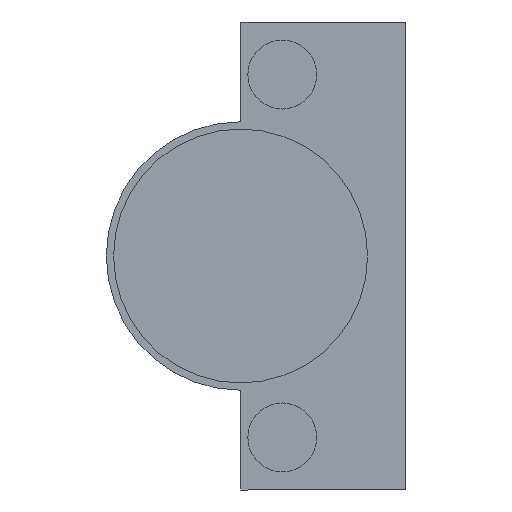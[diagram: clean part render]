
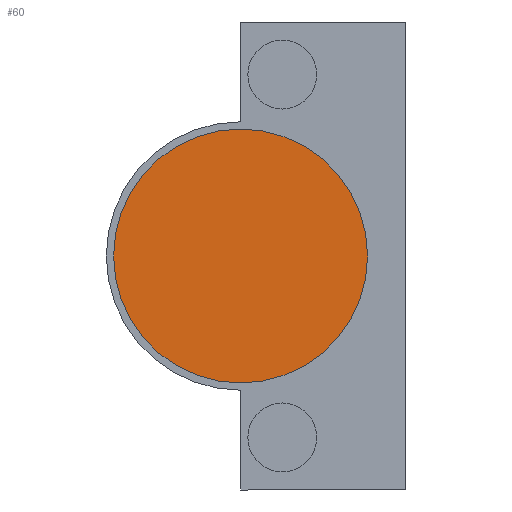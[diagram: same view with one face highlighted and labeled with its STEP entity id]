
A CAD part, front view. The second image highlights one B-rep face of the part: STEP entity #60.
In plain terms, the highlighted planar face has unit normal (0, -1, 0).
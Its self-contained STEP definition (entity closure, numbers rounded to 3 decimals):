
#60 = ADVANCED_FACE ( 'NONE', ( #1088 ), #366, .T. ) ;
#76 = VERTEX_POINT ( 'NONE', #387 ) ;
#83 = VERTEX_POINT ( 'NONE', #393 ) ;
#365 = CARTESIAN_POINT ( 'NONE',  ( 12., -12.6, 0. ) ) ;
#366 = PLANE ( 'NONE',  #1366 ) ;
#368 = DIRECTION ( 'NONE',  ( 0., -1., 0. ) ) ;
#369 = DIRECTION ( 'NONE',  ( 1., 0., 0. ) ) ;
#387 = CARTESIAN_POINT ( 'NONE',  ( 29.5, -12.6, 0. ) ) ;
#393 = CARTESIAN_POINT ( 'NONE',  ( -5.5, -12.6, 0. ) ) ;
#607 = CARTESIAN_POINT ( 'NONE',  ( 12., -12.6, 0. ) ) ;
#608 = DIRECTION ( 'NONE',  ( 0., -1., 0. ) ) ;
#609 = DIRECTION ( 'NONE',  ( 1., 0., 0. ) ) ;
#628 = CARTESIAN_POINT ( 'NONE',  ( 12., -12.6, 0. ) ) ;
#634 = DIRECTION ( 'NONE',  ( 0., -1., 0. ) ) ;
#635 = DIRECTION ( 'NONE',  ( 1., 0., 0. ) ) ;
#850 = EDGE_LOOP ( 'NONE', ( #1538, #1539 ) ) ;
#1088 = FACE_OUTER_BOUND ( 'NONE', #850, .T. ) ;
#1213 = CIRCLE ( 'NONE', #1372, 17.5 ) ;
#1230 = CIRCLE ( 'NONE', #1387, 17.5 ) ;
#1366 = AXIS2_PLACEMENT_3D ( 'NONE', #365, #368, #369 ) ;
#1372 = AXIS2_PLACEMENT_3D ( 'NONE', #607, #608, #609 ) ;
#1387 = AXIS2_PLACEMENT_3D ( 'NONE', #628, #634, #635 ) ;
#1538 = ORIENTED_EDGE ( 'NONE', *, *, #1609, .T. ) ;
#1539 = ORIENTED_EDGE ( 'NONE', *, *, #1620, .T. ) ;
#1609 = EDGE_CURVE ( 'NONE', #83, #76, #1213, .T. ) ;
#1620 = EDGE_CURVE ( 'NONE', #76, #83, #1230, .T. ) ;
